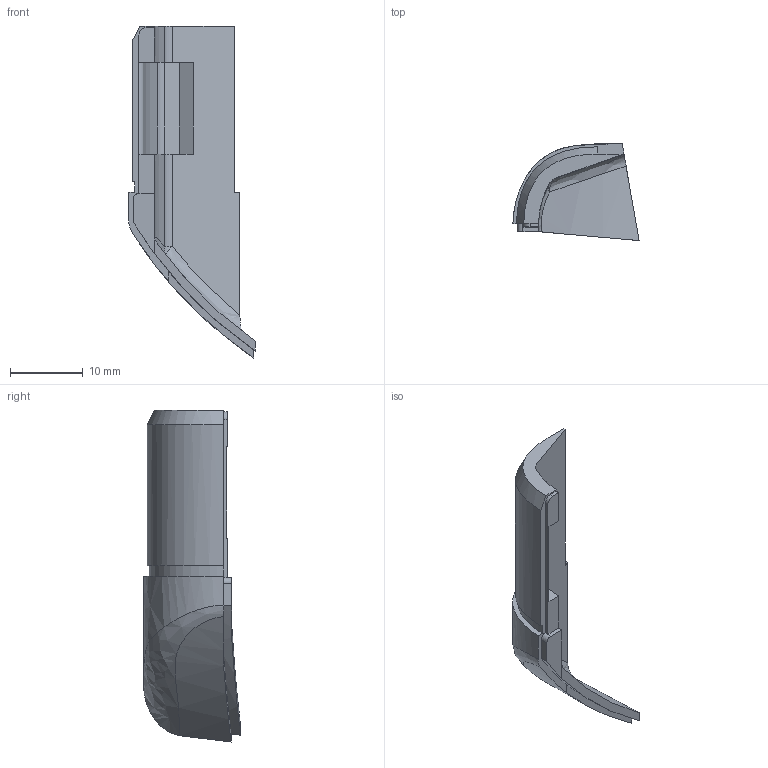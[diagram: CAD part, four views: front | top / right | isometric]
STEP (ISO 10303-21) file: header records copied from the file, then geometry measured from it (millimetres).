
FILE_DESCRIPTION (( 'STEP AP203' ), '1' );
FILE_NAME ('Door Trim End 1 Mirror.STEP', '2024-09-13T05:22:57', ( '' ), ( '' ), 'SwSTEP 2.0', 'SolidWorks 2021', '' );
FILE_SCHEMA (( 'CONFIG_CONTROL_DESIGN' ));
Length unit declared in the file: millimetre
Products named in the file (1): Door Trim End 1 Mirror
Bounding box: 17.34 x 13.31 x 45.56 mm (x, y, z)
Volume: 1859.2 mm3; surface area: 2004.2 mm2
Topology: 1 solids, 1 shells, 43 faces, 116 edges, 75 vertices
Faces by surface type: plane 22, cylinder 13, bspline 7, sphere 1
Entity records: 2227 total; most frequent: CARTESIAN_POINT 1132, ORIENTED_EDGE 232, DIRECTION 188, EDGE_CURVE 116, VERTEX_POINT 75, LINE 66, VECTOR 66, AXIS2_PLACEMENT_3D 61
